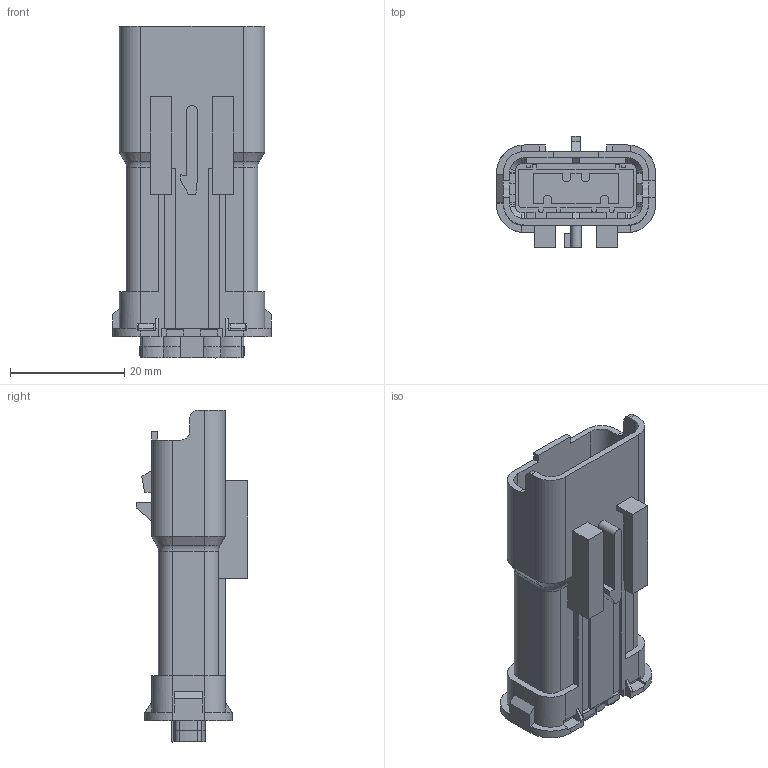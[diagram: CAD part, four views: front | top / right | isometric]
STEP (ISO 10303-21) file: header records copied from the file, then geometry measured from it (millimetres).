
FILE_DESCRIPTION(/* description */ (''),/* implementation_level */ '2;1');
FILE_NAME(/* name */ '33511736_ENV10_01.stp',/* time_stamp */ '2020-07-09T21:45:33+05:00',/* author */ (''),/* organization */ (''),/* preprocessor_version */ 'ST-DEVELOPER v16',/* originating_system */ 'SIEMENS PLM Software NX 11.0',/* authorisation */ '');
FILE_SCHEMA (('AP203_CONFIGURATION_CONTROLLED_3D_DESIGN_OF_MECHANICAL_PARTS_AND_ASSEMBLIES_MIM_LF { 1 0 10303 403 2 1 2}'));
Length unit declared in the file: millimetre
Products named in the file (1): qzs53380227A7lb3
Bounding box: 27.8 x 19.55 x 58.05 mm (x, y, z)
Volume: 11252.1 mm3; surface area: 7394.9 mm2
Topology: 1 solids, 1 shells, 448 faces, 1292 edges, 840 vertices
Faces by surface type: plane 344, cylinder 77, cone 19, bspline 4, torus 4
Entity records: 15264 total; most frequent: CARTESIAN_POINT 3276, ORIENTED_EDGE 2584, DIRECTION 2358, EDGE_CURVE 1292, LINE 1052, VECTOR 1052, VERTEX_POINT 840, AXIS2_PLACEMENT_3D 653
